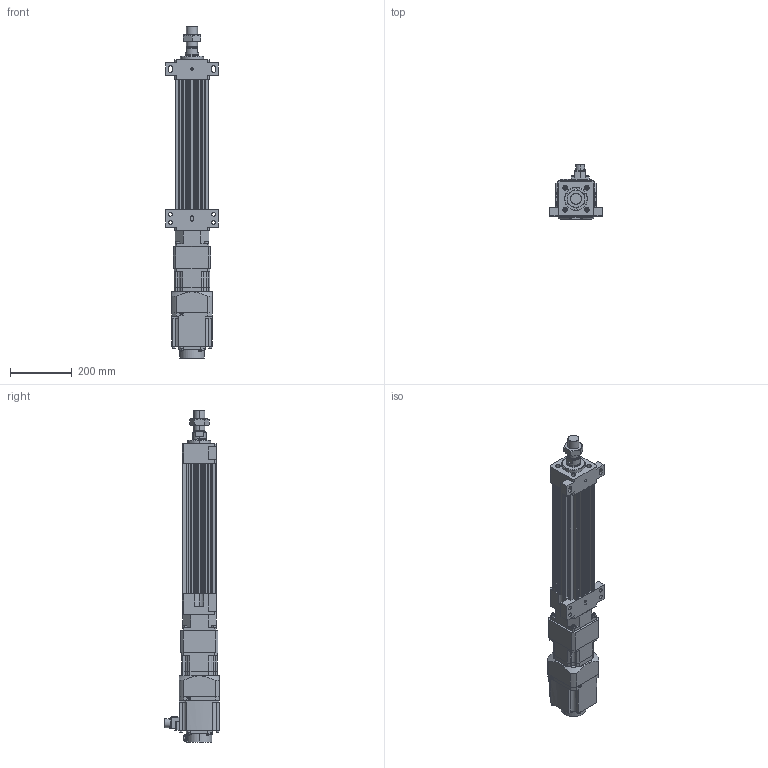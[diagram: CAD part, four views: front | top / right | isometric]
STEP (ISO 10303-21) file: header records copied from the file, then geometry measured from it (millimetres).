
FILE_DESCRIPTION (( 'STEP AP203' ), '1' );
FILE_NAME ('HES110NS(HS)-S250-W015G00-M-FFB.STEP', '2023-01-27T11:49:16', ( 'tms' ), ( '' ), 'SwSTEP 2.0', 'SolidWorks 2013', '' );
FILE_SCHEMA (( 'CONFIG_CONTROL_DESIGN' ));
Length unit declared in the file: millimetre
Products named in the file (8): AB1151; HES110NS(HS)-S250-W015G00-M-FFB; P0401400706; M36X1.5P; HES110-S250-G120-FFB; AB115-003[HG-SR152]; HG-SR152; HES110 ROD M ST250
Assembly tree (7 placements, depth 3):
  HES110NS(HS)-S250-W015G00-M-FFB
    HES110-S250-G120-FFB
    HES110 ROD M ST250
    M36X1.5P
    AB115-003[HG-SR152]
      AB1151
      P0401400706
    HG-SR152
Bounding box: 170 x 177.49 x 1071.5 mm (x, y, z)
Volume: 6987608.8 mm3; surface area: 950935.5 mm2
Topology: 4 solids, 15 shells, 1194 faces, 3023 edges, 1968 vertices
Faces by surface type: plane 571, cylinder 531, cone 80, bspline 8, torus 4
Entity records: 37745 total; most frequent: CARTESIAN_POINT 7162, DIRECTION 6520, ORIENTED_EDGE 5998, EDGE_CURVE 3009, AXIS2_PLACEMENT_3D 2386, VERTEX_POINT 1968, VECTOR 1748, LINE 1748
